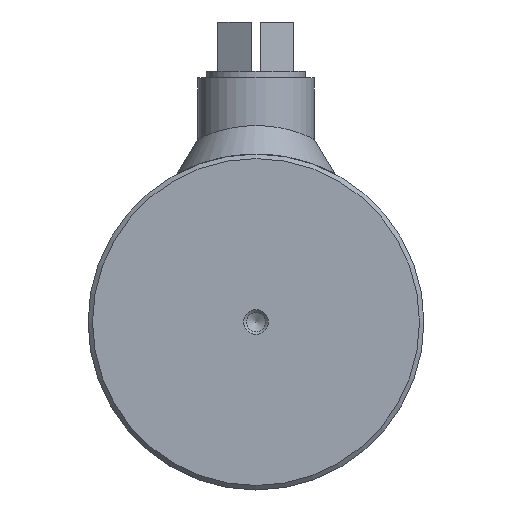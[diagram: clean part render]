
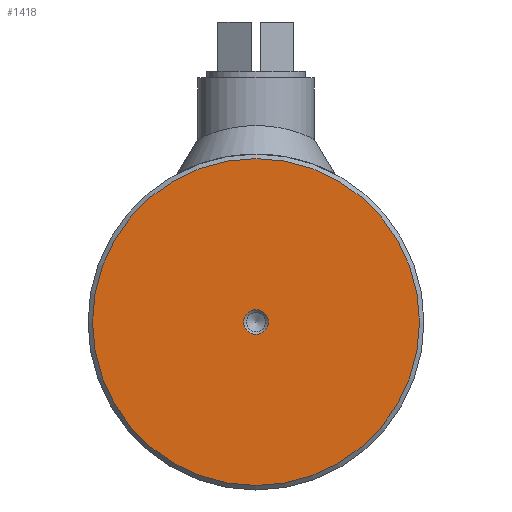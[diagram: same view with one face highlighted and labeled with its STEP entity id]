
A CAD part, left-side view. The second image highlights one B-rep face of the part: STEP entity #1418.
In plain terms, the highlighted planar face has unit normal (-1, 0, 0).
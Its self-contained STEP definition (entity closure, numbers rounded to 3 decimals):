
#1418 = ADVANCED_FACE( '', ( #2680, #2681 ), #2682, .F. );
#2680 = FACE_BOUND( '', #4380, .T. );
#2681 = FACE_OUTER_BOUND( '', #4381, .T. );
#2682 = PLANE( '', #4382 );
#4380 = EDGE_LOOP( '', ( #6738 ) );
#4381 = EDGE_LOOP( '', ( #6739 ) );
#4382 = AXIS2_PLACEMENT_3D( '', #6740, #6741, #6742 );
#6738 = ORIENTED_EDGE( '', *, *, #7962, .T. );
#6739 = ORIENTED_EDGE( '', *, *, #7560, .T. );
#6740 = CARTESIAN_POINT( '', ( -20., 0., 37.5 ) );
#6741 = DIRECTION( '', ( 1., 0., 0. ) );
#6742 = DIRECTION( '', ( 0., 0., -1. ) );
#7560 = EDGE_CURVE( '', #8540, #8540, #8541, .F. );
#7962 = EDGE_CURVE( '', #9132, #9132, #9133, .T. );
#8540 = VERTEX_POINT( '', #10064 );
#8541 = CIRCLE( '', #10065, 36.5 );
#9132 = VERTEX_POINT( '', #12120 );
#9133 = CIRCLE( '', #12121, 2.75 );
#10064 = CARTESIAN_POINT( '', ( -20., 0., -36.5 ) );
#10065 = AXIS2_PLACEMENT_3D( '', #12639, #12640, #12641 );
#12120 = CARTESIAN_POINT( '', ( -20., 0., -2.75 ) );
#12121 = AXIS2_PLACEMENT_3D( '', #13153, #13154, #13155 );
#12639 = CARTESIAN_POINT( '', ( -20., 0., 0. ) );
#12640 = DIRECTION( '', ( 1., 0., 0. ) );
#12641 = DIRECTION( '', ( 0., 0., -1. ) );
#13153 = CARTESIAN_POINT( '', ( -20., 0., 0. ) );
#13154 = DIRECTION( '', ( 1., 0., 0. ) );
#13155 = DIRECTION( '', ( 0., 0., -1. ) );
